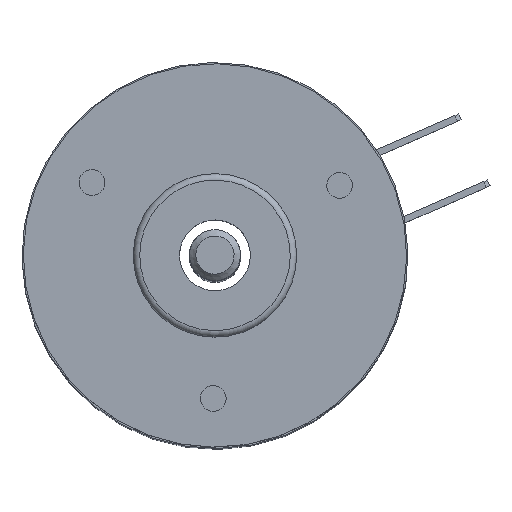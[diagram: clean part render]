
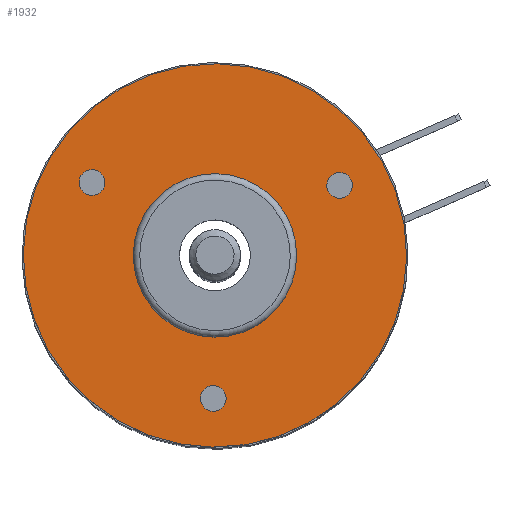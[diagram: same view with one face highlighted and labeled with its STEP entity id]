
A CAD part, top view. The second image highlights one B-rep face of the part: STEP entity #1932.
In plain terms, the highlighted planar face has unit normal (0, 0, 1) as drawn and (-1, 0, 0) by its records, which use the part's own axes.
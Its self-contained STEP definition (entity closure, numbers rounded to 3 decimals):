
#128=FACE_BOUND('',#412,.T.);
#129=FACE_BOUND('',#413,.T.);
#130=FACE_BOUND('',#414,.T.);
#131=FACE_BOUND('',#415,.T.);
#181=PLANE('',#2292);
#298=FACE_OUTER_BOUND('',#411,.T.);
#411=EDGE_LOOP('',(#1610,#1611));
#412=EDGE_LOOP('',(#1612,#1613));
#413=EDGE_LOOP('',(#1614,#1615));
#414=EDGE_LOOP('',(#1616,#1617));
#415=EDGE_LOOP('',(#1618,#1619));
#773=CIRCLE('',#2268,1.);
#774=CIRCLE('',#2269,1.);
#776=CIRCLE('',#2272,1.);
#777=CIRCLE('',#2273,1.);
#779=CIRCLE('',#2276,1.);
#780=CIRCLE('',#2277,1.);
#788=CIRCLE('',#2288,6.35);
#789=CIRCLE('',#2289,6.35);
#791=CIRCLE('',#2293,14.9);
#792=CIRCLE('',#2294,14.9);
#932=VERTEX_POINT('',#3532);
#933=VERTEX_POINT('',#3534);
#935=VERTEX_POINT('',#3540);
#936=VERTEX_POINT('',#3542);
#938=VERTEX_POINT('',#3548);
#939=VERTEX_POINT('',#3550);
#946=VERTEX_POINT('',#3569);
#947=VERTEX_POINT('',#3570);
#949=VERTEX_POINT('',#3579);
#950=VERTEX_POINT('',#3580);
#1166=EDGE_CURVE('',#933,#932,#773,.T.);
#1167=EDGE_CURVE('',#932,#933,#774,.T.);
#1170=EDGE_CURVE('',#936,#935,#776,.T.);
#1171=EDGE_CURVE('',#935,#936,#777,.T.);
#1174=EDGE_CURVE('',#939,#938,#779,.T.);
#1175=EDGE_CURVE('',#938,#939,#780,.T.);
#1183=EDGE_CURVE('',#946,#947,#788,.T.);
#1184=EDGE_CURVE('',#947,#946,#789,.T.);
#1188=EDGE_CURVE('',#949,#950,#791,.T.);
#1189=EDGE_CURVE('',#950,#949,#792,.T.);
#1610=ORIENTED_EDGE('',*,*,#1188,.F.);
#1611=ORIENTED_EDGE('',*,*,#1189,.F.);
#1612=ORIENTED_EDGE('',*,*,#1166,.T.);
#1613=ORIENTED_EDGE('',*,*,#1167,.T.);
#1614=ORIENTED_EDGE('',*,*,#1170,.T.);
#1615=ORIENTED_EDGE('',*,*,#1171,.T.);
#1616=ORIENTED_EDGE('',*,*,#1174,.T.);
#1617=ORIENTED_EDGE('',*,*,#1175,.T.);
#1618=ORIENTED_EDGE('',*,*,#1183,.T.);
#1619=ORIENTED_EDGE('',*,*,#1184,.T.);
#1932=ADVANCED_FACE('',(#298,#128,#129,#130,#131),#181,.T.);
#2268=AXIS2_PLACEMENT_3D('',#3535,#2687,#2688);
#2269=AXIS2_PLACEMENT_3D('',#3536,#2689,#2690);
#2272=AXIS2_PLACEMENT_3D('',#3543,#2696,#2697);
#2273=AXIS2_PLACEMENT_3D('',#3544,#2698,#2699);
#2276=AXIS2_PLACEMENT_3D('',#3551,#2705,#2706);
#2277=AXIS2_PLACEMENT_3D('',#3552,#2707,#2708);
#2288=AXIS2_PLACEMENT_3D('',#3571,#2729,#2730);
#2289=AXIS2_PLACEMENT_3D('',#3572,#2731,#2732);
#2292=AXIS2_PLACEMENT_3D('',#3578,#2739,#2740);
#2293=AXIS2_PLACEMENT_3D('',#3581,#2741,#2742);
#2294=AXIS2_PLACEMENT_3D('',#3582,#2743,#2744);
#2687=DIRECTION('center_axis',(1.,0.,0.));
#2688=DIRECTION('ref_axis',(0.,0.866,-0.5));
#2689=DIRECTION('center_axis',(1.,0.,0.));
#2690=DIRECTION('ref_axis',(0.,0.866,-0.5));
#2696=DIRECTION('center_axis',(1.,0.,0.));
#2697=DIRECTION('ref_axis',(0.,-0.866,-0.5));
#2698=DIRECTION('center_axis',(1.,0.,0.));
#2699=DIRECTION('ref_axis',(0.,-0.866,-0.5));
#2705=DIRECTION('center_axis',(1.,0.,0.));
#2706=DIRECTION('ref_axis',(0.,0.,1.));
#2707=DIRECTION('center_axis',(1.,0.,0.));
#2708=DIRECTION('ref_axis',(0.,0.,1.));
#2729=DIRECTION('center_axis',(1.,0.,0.));
#2730=DIRECTION('ref_axis',(0.,1.,0.));
#2731=DIRECTION('center_axis',(1.,0.,0.));
#2732=DIRECTION('ref_axis',(0.,1.,0.));
#2739=DIRECTION('center_axis',(-1.,0.,0.));
#2740=DIRECTION('ref_axis',(0.,0.,1.));
#2741=DIRECTION('center_axis',(1.,0.,0.));
#2742=DIRECTION('ref_axis',(0.,1.,0.));
#2743=DIRECTION('center_axis',(1.,0.,0.));
#2744=DIRECTION('ref_axis',(0.,1.,0.));
#3532=CARTESIAN_POINT('',(1.57,-10.49,-5.056));
#3534=CARTESIAN_POINT('',(1.57,-8.758,-6.056));
#3535=CARTESIAN_POINT('Origin',(1.57,-9.624,-5.556));
#3536=CARTESIAN_POINT('Origin',(1.57,-9.624,-5.556));
#3540=CARTESIAN_POINT('',(1.57,0.866,11.613));
#3542=CARTESIAN_POINT('',(1.57,-0.866,10.613));
#3543=CARTESIAN_POINT('Origin',(1.57,0.,11.113));
#3544=CARTESIAN_POINT('Origin',(1.57,0.,11.113));
#3548=CARTESIAN_POINT('',(1.57,9.624,-6.556));
#3550=CARTESIAN_POINT('',(1.57,9.624,-4.556));
#3551=CARTESIAN_POINT('Origin',(1.57,9.624,-5.556));
#3552=CARTESIAN_POINT('Origin',(1.57,9.624,-5.556));
#3569=CARTESIAN_POINT('',(1.57,6.35,0.));
#3570=CARTESIAN_POINT('',(1.57,-6.35,0.));
#3571=CARTESIAN_POINT('Origin',(1.57,0.,0.));
#3572=CARTESIAN_POINT('Origin',(1.57,0.,0.));
#3578=CARTESIAN_POINT('Origin',(1.57,10.625,0.));
#3579=CARTESIAN_POINT('',(1.57,14.9,0.));
#3580=CARTESIAN_POINT('',(1.57,-14.9,0.));
#3581=CARTESIAN_POINT('Origin',(1.57,0.,0.));
#3582=CARTESIAN_POINT('Origin',(1.57,0.,0.));
